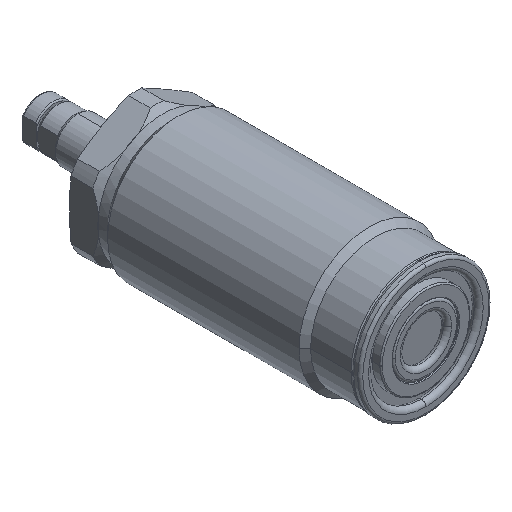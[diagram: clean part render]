
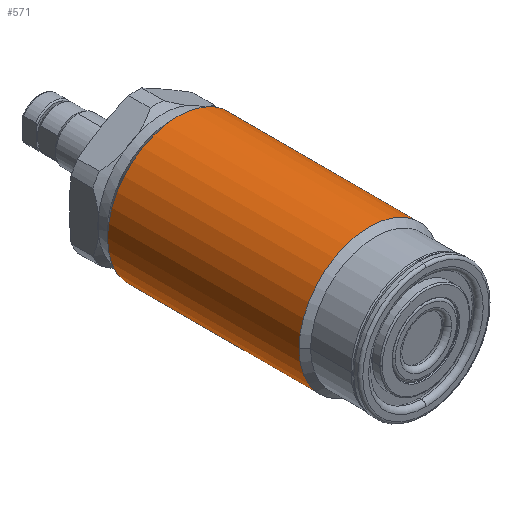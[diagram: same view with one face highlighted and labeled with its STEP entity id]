
A CAD part, isometric view. The second image highlights one B-rep face of the part: STEP entity #571.
In plain terms, the highlighted cylindrical face has radius 11 mm (diameter 22 mm), a full revolution.
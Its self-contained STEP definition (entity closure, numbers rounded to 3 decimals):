
#214=FACE_BOUND('',#878,.T.);
#215=FACE_BOUND('',#879,.T.);
#316=CYLINDRICAL_SURFACE('',#2433,11.);
#382=LINE('',#3874,#459);
#383=LINE('',#3879,#460);
#459=VECTOR('',#3049,1.);
#460=VECTOR('',#3052,1.);
#571=ADVANCED_FACE('',(#214,#215),#316,.T.);
#878=EDGE_LOOP('',(#1316));
#879=EDGE_LOOP('',(#1317,#1318,#1319,#1320,#1321,#1322));
#1316=ORIENTED_EDGE('',*,*,#1921,.T.);
#1317=ORIENTED_EDGE('',*,*,#1922,.F.);
#1318=ORIENTED_EDGE('',*,*,#1922,.T.);
#1319=ORIENTED_EDGE('',*,*,#1923,.F.);
#1320=ORIENTED_EDGE('',*,*,#1924,.F.);
#1321=ORIENTED_EDGE('',*,*,#1924,.T.);
#1322=ORIENTED_EDGE('',*,*,#1925,.F.);
#1671=VERTEX_POINT('',#3873);
#1672=VERTEX_POINT('',#3875);
#1673=VERTEX_POINT('',#3876);
#1674=VERTEX_POINT('',#3878);
#1675=VERTEX_POINT('',#3880);
#1921=EDGE_CURVE('',#1671,#1671,#2152,.T.);
#1922=EDGE_CURVE('',#1672,#1673,#382,.T.);
#1923=EDGE_CURVE('',#1674,#1673,#2153,.T.);
#1924=EDGE_CURVE('',#1675,#1674,#383,.T.);
#1925=EDGE_CURVE('',#1673,#1674,#2154,.T.);
#2152=CIRCLE('',#2430,11.);
#2153=CIRCLE('',#2431,11.);
#2154=CIRCLE('',#2432,11.);
#2430=AXIS2_PLACEMENT_3D('',#3872,#3047,#3048);
#2431=AXIS2_PLACEMENT_3D('',#3877,#3050,#3051);
#2432=AXIS2_PLACEMENT_3D('',#3881,#3053,#3054);
#2433=AXIS2_PLACEMENT_3D('',#3882,#3055,#3056);
#3047=DIRECTION('',(0.,-1.,0.));
#3048=DIRECTION('',(1.,0.,0.));
#3049=DIRECTION('',(0.,-1.,0.));
#3050=DIRECTION('',(0.,-1.,0.));
#3051=DIRECTION('',(-1.,0.,0.));
#3052=DIRECTION('',(0.,-1.,0.));
#3053=DIRECTION('',(0.,-1.,0.));
#3054=DIRECTION('',(-1.,0.,0.));
#3055=DIRECTION('',(0.,-1.,0.));
#3056=DIRECTION('',(1.,0.,0.));
#3872=CARTESIAN_POINT('',(0.,37.4,0.));
#3873=CARTESIAN_POINT('',(11.,37.4,0.));
#3874=CARTESIAN_POINT('',(11.,0.,0.));
#3875=CARTESIAN_POINT('',(11.,36.456,0.));
#3876=CARTESIAN_POINT('',(11.,7.5,0.));
#3877=CARTESIAN_POINT('',(0.,7.5,0.));
#3878=CARTESIAN_POINT('',(-11.,7.5,0.));
#3879=CARTESIAN_POINT('',(-11.,0.,0.));
#3880=CARTESIAN_POINT('',(-11.,36.456,0.));
#3881=CARTESIAN_POINT('',(0.,7.5,0.));
#3882=CARTESIAN_POINT('',(0.,0.,0.));
